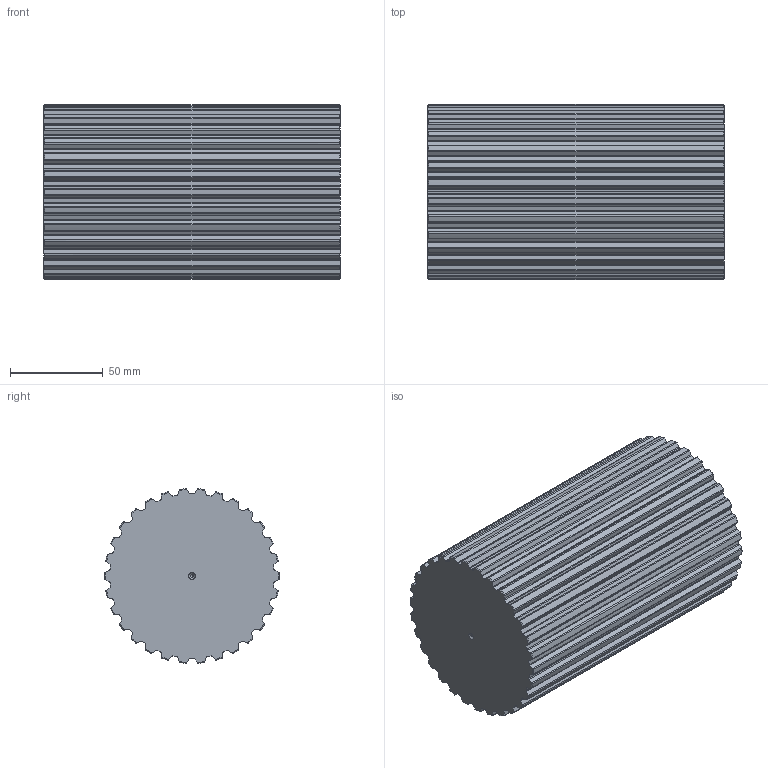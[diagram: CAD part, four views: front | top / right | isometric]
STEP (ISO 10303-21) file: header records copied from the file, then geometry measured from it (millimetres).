
FILE_DESCRIPTION(('STEP AP203'),'1');
FILE_NAME('bart_30.stp','2020-02-28T15:37:42',('TraceParts'),('TraceParts S.A.'),'Spatial InterOp 3D',' ',' ');
FILE_SCHEMA(('CONFIG_CONTROL_DESIGN'));
Length unit declared in the file: millimetre
Products named in the file (1): 1
Bounding box: 160 x 94.49 x 94.24 mm (x, y, z)
Volume: 1060293.1 mm3; surface area: 74249.1 mm2
Topology: 1 solids, 1 shells, 320 faces, 946 edges, 626 vertices
Faces by surface type: cylinder 186, cone 72, plane 62
Entity records: 11266 total; most frequent: CARTESIAN_POINT 2969, ORIENTED_EDGE 1884, DIRECTION 1668, EDGE_CURVE 942, AXIS2_PLACEMENT_3D 645, VERTEX_POINT 626, LINE 378, VECTOR 378
